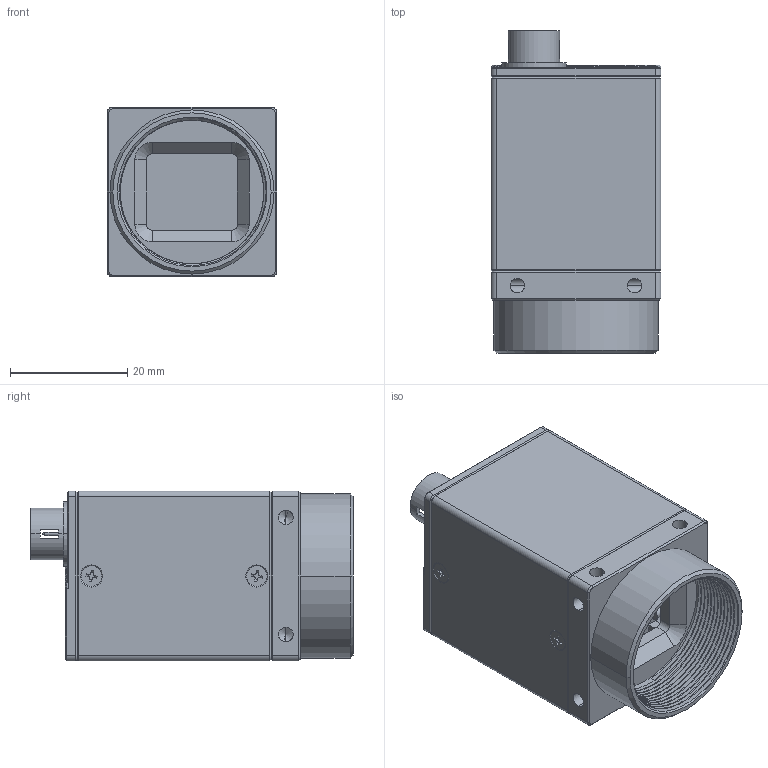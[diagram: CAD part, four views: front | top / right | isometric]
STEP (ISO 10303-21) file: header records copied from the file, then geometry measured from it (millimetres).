
FILE_DESCRIPTION (( 'STEP AP203' ), '1' );
FILE_NAME ('GEV-CB-V2.STEP', '2023-04-15T06:12:43', ( '' ), ( '' ), 'SwSTEP 2.0', 'SolidWorks 2022', '' );
FILE_SCHEMA (( 'CONFIG_CONTROL_DESIGN' ));
Products named in the file (1): GEV-CB-V2
Bounding box: 29 x 55 x 29 mm (x, y, z)
Volume: 17822.9 mm3; surface area: 26187 mm2
Topology: 31 solids, 31 shells, 1337 faces, 3439 edges, 2173 vertices
Faces by surface type: plane 544, cylinder 487, cone 263, bspline 41, torus 2
Entity records: 45447 total; most frequent: CARTESIAN_POINT 13822, ORIENTED_EDGE 6790, DIRECTION 6231, EDGE_CURVE 3395, AXIS2_PLACEMENT_3D 2242, VERTEX_POINT 2173, VECTOR 1747, LINE 1747
